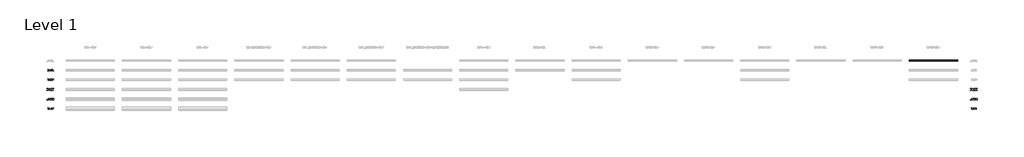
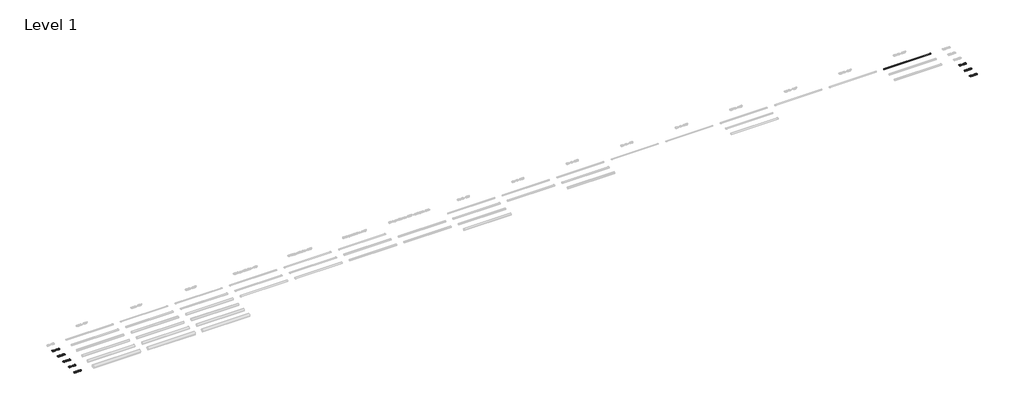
# One storey, part 2 of 9: 8 proxies, 1 pipe segment.
"""IFC4 building model written with IfcOpenShell, lengths in millimetres."""

from ifc_helpers import new_model, si_unit, point, frame, frame_2d, origin, origin_with_axes, place, context, project, spatial, polyline, circle_curve, trimmed, segment, composite_curve, outline, extrude, element, save

model = new_model("IFC4")

# Units and contexts
model_context = context("Model", 3, world=origin())
ifc_project = project(units=[si_unit("LENGTHUNIT", "METRE", prefix="MILLI")], contexts=[model_context])

# Site, building, storey
site = spatial("IfcSite", under=ifc_project)
building = spatial("IfcBuilding", under=site)
storey = spatial("IfcBuildingStorey", under=building, Name="Level 1", Elevation=0.0)

# Proxies
placement = place(None, origin())
element("IfcBuildingElementProxy", 1, Name="200mm Arial", ObjectType="200mm Arial", at=placement, inside=storey, context=model_context, shape_type="SweptSolid", body=[
    extrude(outline(polyline([(-19491.3116028, -713.949573), (-19491.3116028, -513.0369527), (-19422.0026349, -513.0369527), (-19386.1464031, -515.9309577), (-19370.1312736, -521.5105013), (-19356.6177416, -530.302881), (-19342.724065, -545.606772), (-19332.8280393, -564.6385338), (-19326.9051392, -587.0302846), (-19324.9308391, -612.4141423), (-19330.2773908, -652.9547382), (-19344.0116519, -682.2136195), (-19362.3567008, -700.436041), (-19386.3671323, -710.5160077), (-19418.6671715, -713.949573), (-19491.3116028, -713.949573)]), holes=[polyline([(-19466.1975253, -688.8354954), (-19421.7573803, -688.8354954), (-19389.4328156, -685.2057264), (-19370.7934612, -674.9540815), (-19362.0685265, -664.0831685), (-19355.5140957, -650.0116822), (-19351.4122114, -632.6783089), (-19350.0449167, -612.0217348), (-19352.7243239, -584.6513144), (-19360.7625455, -564.4423301), (-19372.6390025, -550.5609162), (-19386.8331162, -542.1732067), (-19422.4440933, -538.1510302), (-19466.1975253, -538.1510302), (-19466.1975253, -688.8354954)])]), origin_with_axes(), (0.0, 0.0, 1.0), 50.0),
    extrude(outline(polyline([(-19290.3989825, -713.949573), (-19290.3989825, -513.0369527), (-19263.5190714, -513.0369527), (-19158.5500754, -672.2072292), (-19158.5500754, -513.0369527), (-19133.4359979, -513.0369527), (-19133.4359979, -713.949573), (-19160.315909, -713.949573), (-19265.284905, -554.7302454), (-19265.284905, -713.949573), (-19290.3989825, -713.949573)])), origin_with_axes(), (0.0, 0.0, 1.0), 50.0),
    extrude(outline(polyline([(-18926.2448582, -713.949573), (-18951.3589358, -713.949573), (-18951.3589358, -557.3789958), (-18975.1486381, -574.3260931), (-19001.5870908, -587.0057592), (-19001.5870908, -563.2651077), (-18964.7743658, -539.769711), (-18951.3037535, -526.1948653), (-18942.431666, -513.0369527), (-18926.2448582, -513.0369527), (-18926.2448582, -713.949573)])), origin_with_axes(), (0.0, 0.0, 1.0), 50.0),
    extrude(outline(polyline([(-18737.8892767, -566.4043674), (-18763.0033542, -569.5436271), (-18772.5192352, -548.5988789), (-18783.9113143, -540.7629924), (-18797.6823636, -538.1510302), (-18820.3438945, -544.2333458), (-18829.7800677, -553.8411973), (-18837.4871955, -567.066555), (-18842.6927257, -585.7733545), (-18844.6241062, -611.8255311), (-18834.5502709, -600.0717013), (-18822.4776101, -591.7882251), (-18809.0805741, -586.8770005), (-18795.0336133, -585.2399256), (-18771.8325221, -589.7158232), (-18752.3593018, -603.143516), (-18739.1523382, -623.6590686), (-18734.750017, -649.3985455), (-18736.8224189, -667.3818437), (-18743.0396246, -684.0530295), (-18752.8865994, -698.1919608), (-18765.8483083, -708.5784958), (-18781.3361403, -714.9612484), (-18798.7614842, -717.0888326), (-18827.2539447, -711.4479754), (-18849.9461324, -694.5254036), (-18858.6051549, -681.4165418), (-18864.7901709, -664.6533856), (-18869.7381838, -620.1641897), (-18864.2444793, -570.144501), (-18857.3773487, -551.0667539), (-18847.7633659, -535.9437382), (-18837.3431084, -525.9220195), (-18825.2612505, -518.763649), (-18796.1127338, -513.0369527), (-18774.0766023, -516.5808825), (-18756.4305292, -527.2126722), (-18744.0696942, -544.0984558), (-18737.8892767, -566.4043674)]), holes=[polyline([(-18844.6241062, -649.0061381), (-18838.8115707, -670.7602267), (-18823.3605269, -686.554627), (-18800.7235215, -691.9747551), (-18784.1504376, -689.1665892), (-18771.1212836, -680.7420915), (-18762.6783918, -667.4983397), (-18759.8640945, -650.2324114), (-18762.6416036, -633.6593275), (-18770.9741308, -621.022581), (-18784.224014, -613.0211476), (-18801.7535911, -610.3540031), (-18818.3021495, -613.0211476), (-18832.1406439, -621.022581), (-18841.5032406, -633.3527592), (-18844.6241062, -649.0061381)])]), origin_with_axes(), (0.0, 0.0, 1.0), 50.0),
    extrude(outline(polyline([(-18712.7751992, -615.1119436), (-18710.9296578, -582.9529258), (-18705.3930338, -557.3054194), (-18696.2205094, -537.7770168), (-18683.4672669, -523.9753106), (-18667.0413358, -515.7715422), (-18646.8507456, -513.0369527), (-18631.3751764, -514.6556334), (-18617.5182879, -519.5116758), (-18605.930005, -527.4150073), (-18597.2602527, -538.1755557), (-18585.4880288, -567.9004209), (-18580.9262921, -615.1119436), (-18582.7534393, -647.0870203), (-18588.2348811, -672.6732131), (-18597.3522232, -692.2200098), (-18610.0870716, -706.0768983), (-18626.5497909, -714.335849), (-18646.8507456, -717.0888326), (-18672.9458418, -712.3063667), (-18692.7624186, -697.9589689), (-18701.5180101, -682.8298218), (-18707.772004, -663.9789353), (-18712.7751992, -615.1119436)]), holes=[polyline([(-18687.6611216, -615.0628927), (-18684.7180657, -654.5672876), (-18675.8888978, -677.4311536), (-18662.7432478, -688.3388547), (-18646.8507456, -691.9747551), (-18630.9582434, -688.326592), (-18617.8125935, -677.3821026), (-18608.9834256, -654.5059739), (-18606.0403696, -615.0628927), (-18608.8853237, -576.4475459), (-18617.420186, -553.4058703), (-18630.5413105, -541.9647402), (-18647.1450512, -538.1510302), (-18662.8658751, -541.5110191), (-18675.4964903, -551.5909857), (-18684.6199638, -576.0674012), (-18687.6611216, -615.0628927)])]), origin_with_axes(), (0.0, 0.0, 1.0), 50.0),
])
element("IfcBuildingElementProxy", 2, Name="200mm Arial", ObjectType="200mm Arial", at=placement, inside=storey, context=model_context, shape_type="SweptSolid", body=[
    extrude(outline(polyline([(-19491.3116028, -1913.949573), (-19491.3116028, -1713.0369527), (-19422.0026349, -1713.0369527), (-19386.1464031, -1715.9309577), (-19370.1312736, -1721.5105013), (-19356.6177416, -1730.302881), (-19342.724065, -1745.606772), (-19332.8280393, -1764.6385338), (-19326.9051392, -1787.0302846), (-19324.9308391, -1812.4141423), (-19330.2773908, -1852.9547382), (-19344.0116519, -1882.2136195), (-19362.3567008, -1900.436041), (-19386.3671323, -1910.5160077), (-19418.6671715, -1913.949573), (-19491.3116028, -1913.949573)]), holes=[polyline([(-19466.1975253, -1888.8354954), (-19421.7573803, -1888.8354954), (-19389.4328156, -1885.2057264), (-19370.7934612, -1874.9540815), (-19362.0685265, -1864.0831685), (-19355.5140957, -1850.0116822), (-19351.4122114, -1832.6783089), (-19350.0449167, -1812.0217348), (-19352.7243239, -1784.6513144), (-19360.7625455, -1764.4423301), (-19372.6390025, -1750.5609162), (-19386.8331162, -1742.1732067), (-19422.4440933, -1738.1510302), (-19466.1975253, -1738.1510302), (-19466.1975253, -1888.8354954)])]), origin_with_axes(), (0.0, 0.0, 1.0), 50.0),
    extrude(outline(polyline([(-19290.3989825, -1913.949573), (-19290.3989825, -1713.0369527), (-19263.5190714, -1713.0369527), (-19158.5500754, -1872.2072292), (-19158.5500754, -1713.0369527), (-19133.4359979, -1713.0369527), (-19133.4359979, -1913.949573), (-19160.315909, -1913.949573), (-19265.284905, -1754.7302454), (-19265.284905, -1913.949573), (-19290.3989825, -1913.949573)])), origin_with_axes(), (0.0, 0.0, 1.0), 50.0),
    extrude(outline(polyline([(-18891.7130016, -1888.8354954), (-18891.7130016, -1913.949573), (-19023.5619087, -1913.949573), (-19020.8641074, -1896.6345937), (-19005.6092673, -1869.9754118), (-18974.1676195, -1840.8636832), (-18930.806595, -1799.0232377), (-18922.6764029, -1784.6022634), (-18919.9663388, -1770.5736967), (-18922.5231187, -1757.9982638), (-18930.1934583, -1747.5442838), (-18941.9840762, -1740.4993436), (-18956.9016912, -1738.1510302), (-18972.5673328, -1740.4441613), (-18984.7380955, -1747.3235546), (-18992.5923761, -1758.2496499), (-18995.3085714, -1772.6828868), (-19020.422649, -1769.5436271), (-19014.334202, -1745.2511527), (-19001.1701579, -1727.5069778), (-18981.6172299, -1716.6544589), (-18956.3621309, -1713.0369527), (-18930.9230909, -1717.0591291), (-18911.4069511, -1729.1256586), (-18898.9909337, -1747.1518763), (-18894.8522613, -1769.0531178), (-18899.3158962, -1792.8673456), (-18914.1538033, -1817.4909138), (-18950.1326624, -1851.9001431), (-18979.0236618, -1876.0577275), (-18990.3544272, -1888.8354954), (-18891.7130016, -1888.8354954)])), origin_with_axes(), (0.0, 0.0, 1.0), 50.0),
    extrude(outline(polyline([(-18866.5989241, -1815.1119436), (-18864.7533827, -1782.9529258), (-18859.2167587, -1757.3054194), (-18850.0442343, -1737.7770168), (-18837.2909918, -1723.9753106), (-18820.8650607, -1715.7715422), (-18800.6744705, -1713.0369527), (-18785.1989013, -1714.6556334), (-18771.3420128, -1719.5116758), (-18759.7537299, -1727.4150073), (-18751.0839776, -1738.1755557), (-18739.3117537, -1767.9004209), (-18734.750017, -1815.1119436), (-18736.5771642, -1847.0870203), (-18742.058606, -1872.6732131), (-18751.1759481, -1892.2200098), (-18763.9107965, -1906.0768983), (-18780.3735158, -1914.335849), (-18800.6744705, -1917.0888326), (-18826.7695667, -1912.3063667), (-18846.5861435, -1897.9589689), (-18855.341735, -1882.8298218), (-18861.5957289, -1863.9789353), (-18866.5989241, -1815.1119436)]), holes=[polyline([(-18841.4848465, -1815.0628927), (-18838.5417906, -1854.5672876), (-18829.7126227, -1877.4311536), (-18816.5669727, -1888.3388547), (-18800.6744705, -1891.9747551), (-18784.7819683, -1888.326592), (-18771.6363184, -1877.3821026), (-18762.8071505, -1854.5059739), (-18759.8640945, -1815.0628927), (-18762.7090486, -1776.4475459), (-18771.2439109, -1753.4058703), (-18784.3650354, -1741.9647402), (-18800.9687761, -1738.1510302), (-18816.6896001, -1741.5110191), (-18829.3202152, -1751.5909857), (-18838.4436887, -1776.0674012), (-18841.4848465, -1815.0628927)])]), origin_with_axes(), (0.0, 0.0, 1.0), 50.0),
    extrude(outline(polyline([(-18712.7751992, -1815.1119436), (-18710.9296578, -1782.9529258), (-18705.3930338, -1757.3054194), (-18696.2205094, -1737.7770168), (-18683.4672669, -1723.9753106), (-18667.0413358, -1715.7715422), (-18646.8507456, -1713.0369527), (-18631.3751764, -1714.6556334), (-18617.5182879, -1719.5116758), (-18605.930005, -1727.4150073), (-18597.2602527, -1738.1755557), (-18585.4880288, -1767.9004209), (-18580.9262921, -1815.1119436), (-18582.7534393, -1847.0870203), (-18588.2348811, -1872.6732131), (-18597.3522232, -1892.2200098), (-18610.0870716, -1906.0768983), (-18626.5497909, -1914.335849), (-18646.8507456, -1917.0888326), (-18672.9458418, -1912.3063667), (-18692.7624186, -1897.9589689), (-18701.5180101, -1882.8298218), (-18707.772004, -1863.9789353), (-18712.7751992, -1815.1119436)]), holes=[polyline([(-18687.6611216, -1815.0628927), (-18684.7180657, -1854.5672876), (-18675.8888978, -1877.4311536), (-18662.7432478, -1888.3388547), (-18646.8507456, -1891.9747551), (-18630.9582434, -1888.326592), (-18617.8125935, -1877.3821026), (-18608.9834256, -1854.5059739), (-18606.0403696, -1815.0628927), (-18608.8853237, -1776.4475459), (-18617.420186, -1753.4058703), (-18630.5413105, -1741.9647402), (-18647.1450512, -1738.1510302), (-18662.8658751, -1741.5110191), (-18675.4964903, -1751.5909857), (-18684.6199638, -1776.0674012), (-18687.6611216, -1815.0628927)])]), origin_with_axes(), (0.0, 0.0, 1.0), 50.0),
])
element("IfcBuildingElementProxy", 3, Name="200mm Arial", ObjectType="200mm Arial", at=placement, inside=storey, context=model_context, shape_type="SweptSolid", body=[
    extrude(outline(polyline([(-19491.3116028, -3113.949573), (-19491.3116028, -2913.0369527), (-19422.0026349, -2913.0369527), (-19386.1464031, -2915.9309577), (-19370.1312736, -2921.5105013), (-19356.6177416, -2930.302881), (-19342.724065, -2945.606772), (-19332.8280393, -2964.6385338), (-19326.9051392, -2987.0302846), (-19324.9308391, -3012.4141423), (-19330.2773908, -3052.9547382), (-19344.0116519, -3082.2136195), (-19362.3567008, -3100.436041), (-19386.3671323, -3110.5160077), (-19418.6671715, -3113.949573), (-19491.3116028, -3113.949573)]), holes=[polyline([(-19466.1975253, -3088.8354954), (-19421.7573803, -3088.8354954), (-19389.4328156, -3085.2057264), (-19370.7934612, -3074.9540815), (-19362.0685265, -3064.0831685), (-19355.5140957, -3050.0116822), (-19351.4122114, -3032.6783089), (-19350.0449167, -3012.0217348), (-19352.7243239, -2984.6513144), (-19360.7625455, -2964.4423301), (-19372.6390025, -2950.5609162), (-19386.8331162, -2942.1732067), (-19422.4440933, -2938.1510302), (-19466.1975253, -2938.1510302), (-19466.1975253, -3088.8354954)])]), origin_with_axes(), (0.0, 0.0, 1.0), 50.0),
    extrude(outline(polyline([(-19290.3989825, -3113.949573), (-19290.3989825, -2913.0369527), (-19263.5190714, -2913.0369527), (-19158.5500754, -3072.2072292), (-19158.5500754, -2913.0369527), (-19133.4359979, -2913.0369527), (-19133.4359979, -3113.949573), (-19160.315909, -3113.949573), (-19265.284905, -2954.7302454), (-19265.284905, -3113.949573), (-19290.3989825, -3113.949573)])), origin_with_axes(), (0.0, 0.0, 1.0), 50.0),
    extrude(outline(polyline([(-18891.7130016, -3088.8354954), (-18891.7130016, -3113.949573), (-19023.5619087, -3113.949573), (-19020.8641074, -3096.6345937), (-19005.6092673, -3069.9754118), (-18974.1676195, -3040.8636832), (-18930.806595, -2999.0232377), (-18922.6764029, -2984.6022634), (-18919.9663388, -2970.5736967), (-18922.5231187, -2957.9982638), (-18930.1934583, -2947.5442838), (-18941.9840762, -2940.4993436), (-18956.9016912, -2938.1510302), (-18972.5673328, -2940.4441613), (-18984.7380955, -2947.3235546), (-18992.5923761, -2958.2496499), (-18995.3085714, -2972.6828868), (-19020.422649, -2969.5436271), (-19014.334202, -2945.2511527), (-19001.1701579, -2927.5069778), (-18981.6172299, -2916.6544589), (-18956.3621309, -2913.0369527), (-18930.9230909, -2917.0591291), (-18911.4069511, -2929.1256586), (-18898.9909337, -2947.1518763), (-18894.8522613, -2969.0531178), (-18899.3158962, -2992.8673456), (-18914.1538033, -3017.4909138), (-18950.1326624, -3051.9001431), (-18979.0236618, -3076.0577275), (-18990.3544272, -3088.8354954), (-18891.7130016, -3088.8354954)])), origin_with_axes(), (0.0, 0.0, 1.0), 50.0),
    extrude(outline(polyline([(-18866.5989241, -3060.5821582), (-18841.4848465, -3057.4428985), (-18836.8740589, -3072.5199289), (-18828.8297059, -3083.3172655), (-18817.3885758, -3089.8103827), (-18802.5874569, -3091.9747551), (-18784.5857646, -3088.9642541), (-18771.0967581, -3079.9327511), (-18762.6722604, -3065.9225785), (-18759.8640945, -3047.9760685), (-18762.4944508, -3031.0780222), (-18770.3855196, -3018.1531014), (-18783.5986146, -3009.9493329), (-18802.1950494, -3007.2147434), (-18824.2434437, -3011.5802764), (-18838.3455868, -3022.9110419), (-18863.4596644, -3019.7717822), (-18841.4848465, -2916.1762123), (-18744.1677961, -2916.1762123), (-18744.1677961, -2941.2902899), (-18821.1777604, -2941.2902899), (-18831.9199147, -2996.619742), (-18813.979536, -2985.7304349), (-18795.1807661, -2982.1006659), (-18771.7160261, -2986.601089), (-18752.2366745, -3000.1023582), (-18739.1216814, -3020.6792244), (-18734.750017, -3046.4064386), (-18738.6863543, -3071.5205162), (-18750.4953664, -3093.0048247), (-18760.9309523, -3103.5415782), (-18773.1078464, -3111.0678307), (-18787.0260485, -3115.5835821), (-18802.6855588, -3117.0888326), (-18827.3520466, -3113.2199403), (-18847.0030765, -3101.6132634), (-18860.4736888, -3083.6177025), (-18866.5989241, -3060.5821582)])), origin_with_axes(), (0.0, 0.0, 1.0), 50.0),
    extrude(outline(polyline([(-18712.7751992, -3015.1119436), (-18710.9296578, -2982.9529258), (-18705.3930338, -2957.3054194), (-18696.2205094, -2937.7770168), (-18683.4672669, -2923.9753106), (-18667.0413358, -2915.7715422), (-18646.8507456, -2913.0369527), (-18631.3751764, -2914.6556334), (-18617.5182879, -2919.5116758), (-18605.930005, -2927.4150073), (-18597.2602527, -2938.1755557), (-18585.4880288, -2967.9004209), (-18580.9262921, -3015.1119436), (-18582.7534393, -3047.0870203), (-18588.2348811, -3072.6732131), (-18597.3522232, -3092.2200098), (-18610.0870716, -3106.0768983), (-18626.5497909, -3114.335849), (-18646.8507456, -3117.0888326), (-18672.9458418, -3112.3063667), (-18692.7624186, -3097.9589689), (-18701.5180101, -3082.8298218), (-18707.772004, -3063.9789353), (-18712.7751992, -3015.1119436)]), holes=[polyline([(-18687.6611216, -3015.0628927), (-18684.7180657, -3054.5672876), (-18675.8888978, -3077.4311536), (-18662.7432478, -3088.3388547), (-18646.8507456, -3091.9747551), (-18630.9582434, -3088.326592), (-18617.8125935, -3077.3821026), (-18608.9834256, -3054.5059739), (-18606.0403696, -3015.0628927), (-18608.8853237, -2976.4475459), (-18617.420186, -2953.4058703), (-18630.5413105, -2941.9647402), (-18647.1450512, -2938.1510302), (-18662.8658751, -2941.5110191), (-18675.4964903, -2951.5909857), (-18684.6199638, -2976.0674012), (-18687.6611216, -3015.0628927)])]), origin_with_axes(), (0.0, 0.0, 1.0), 50.0),
])
element("IfcBuildingElementProxy", 4, Name="200mm Arial", ObjectType="200mm Arial", at=placement, inside=storey, context=model_context, shape_type="SweptSolid", body=[
    extrude(outline(polyline([(-19491.3116028, -4313.949573), (-19491.3116028, -4113.0369527), (-19422.0026349, -4113.0369527), (-19386.1464031, -4115.9309577), (-19370.1312736, -4121.5105013), (-19356.6177416, -4130.302881), (-19342.724065, -4145.606772), (-19332.8280393, -4164.6385338), (-19326.9051392, -4187.0302846), (-19324.9308391, -4212.4141423), (-19330.2773908, -4252.9547382), (-19344.0116519, -4282.2136195), (-19362.3567008, -4300.436041), (-19386.3671323, -4310.5160077), (-19418.6671715, -4313.949573), (-19491.3116028, -4313.949573)]), holes=[polyline([(-19466.1975253, -4288.8354954), (-19421.7573803, -4288.8354954), (-19389.4328156, -4285.2057264), (-19370.7934612, -4274.9540815), (-19362.0685265, -4264.0831685), (-19355.5140957, -4250.0116822), (-19351.4122114, -4232.6783089), (-19350.0449167, -4212.0217348), (-19352.7243239, -4184.6513144), (-19360.7625455, -4164.4423301), (-19372.6390025, -4150.5609162), (-19386.8331162, -4142.1732067), (-19422.4440933, -4138.1510302), (-19466.1975253, -4138.1510302), (-19466.1975253, -4288.8354954)])]), origin_with_axes(), (0.0, 0.0, 1.0), 50.0),
    extrude(outline(polyline([(-19290.3989825, -4313.949573), (-19290.3989825, -4113.0369527), (-19263.5190714, -4113.0369527), (-19158.5500754, -4272.2072292), (-19158.5500754, -4113.0369527), (-19133.4359979, -4113.0369527), (-19133.4359979, -4313.949573), (-19160.315909, -4313.949573), (-19265.284905, -4154.7302454), (-19265.284905, -4313.949573), (-19290.3989825, -4313.949573)])), origin_with_axes(), (0.0, 0.0, 1.0), 50.0),
    extrude(outline(polyline([(-19020.422649, -4260.5821582), (-18995.3085714, -4257.4428985), (-18989.6861083, -4273.2250361), (-18981.451683, -4283.8813512), (-18970.2006253, -4289.9514041), (-18955.528265, -4291.9747551), (-18938.3113877, -4289.1911147), (-18925.0185849, -4280.8401934), (-18916.5205108, -4268.3812565), (-18913.6878195, -4253.2735692), (-18916.4959853, -4238.9323028), (-18924.920483, -4227.3011004), (-18937.6737255, -4219.5939726), (-18953.4681259, -4217.02493), (-18971.0774107, -4219.7717822), (-18968.2815075, -4194.6577047), (-18964.2593311, -4194.9520102), (-18949.2129575, -4193.1493885), (-18935.7607392, -4187.7415231), (-18926.2693837, -4178.5935242), (-18923.1055985, -4165.5705016), (-18925.3987296, -4154.7241141), (-18932.2781229, -4145.925603), (-18942.7750225, -4140.0946734), (-18955.9206725, -4138.1510302), (-18969.0908479, -4140.1130675), (-18979.8575277, -4145.9991794), (-18987.7179396, -4155.809366), (-18992.1693118, -4169.5436271), (-19017.2833893, -4166.4043674), (-19009.8889612, -4143.8532011), (-18996.7310485, -4127.0164685), (-18978.7293562, -4116.5318316), (-18956.8035893, -4113.0369527), (-18941.0153203, -4114.7598667), (-18926.5146384, -4119.9286087), (-18914.2886934, -4128.0833263), (-18905.3246354, -4138.7641669), (-18899.8247996, -4151.0698196), (-18897.991521, -4164.0989736), (-18899.7328291, -4176.2390794), (-18904.9567534, -4187.2510138), (-18913.5897176, -4196.6320047), (-18925.5581452, -4203.87928), (-18909.8373212, -4210.2313758), (-18898.1877247, -4221.0471064), (-18890.9772376, -4235.7378608), (-18888.5737419, -4253.7150276), (-18893.3807333, -4278.191443), (-18907.8017075, -4298.645682), (-18929.5680589, -4312.478045), (-18956.4111818, -4317.0888326), (-18980.6913935, -4313.1524953), (-19000.4589194, -4301.3434833), (-19014.2054433, -4283.2804773), (-19020.422649, -4260.5821582)])), origin_with_axes(), (0.0, 0.0, 1.0), 50.0),
    extrude(outline(polyline([(-18772.4211333, -4313.949573), (-18797.5352108, -4313.949573), (-18797.5352108, -4157.3789958), (-18821.3249132, -4174.3260931), (-18847.7633659, -4187.0057592), (-18847.7633659, -4163.2651077), (-18810.9506409, -4139.769711), (-18797.4800285, -4126.1948653), (-18788.6079411, -4113.0369527), (-18772.4211333, -4113.0369527), (-18772.4211333, -4313.949573)])), origin_with_axes(), (0.0, 0.0, 1.0), 50.0),
    extrude(outline(polyline([(-18712.7751992, -4260.5821582), (-18687.6611216, -4257.4428985), (-18683.0503339, -4272.5199289), (-18675.005981, -4283.3172655), (-18663.5648509, -4289.8103827), (-18648.763732, -4291.9747551), (-18630.7620397, -4288.9642541), (-18617.2730332, -4279.9327511), (-18608.8485355, -4265.9225785), (-18606.0403696, -4247.9760685), (-18608.6707259, -4231.0780222), (-18616.5617947, -4218.1531014), (-18629.7748897, -4209.9493329), (-18648.3713245, -4207.2147434), (-18670.4197188, -4211.5802764), (-18684.5218619, -4222.9110419), (-18709.6359395, -4219.7717822), (-18687.6611216, -4116.1762123), (-18590.3440712, -4116.1762123), (-18590.3440712, -4141.2902899), (-18667.3540355, -4141.2902899), (-18678.0961897, -4196.619742), (-18660.1558111, -4185.7304349), (-18641.3570412, -4182.1006659), (-18617.8923012, -4186.601089), (-18598.4129496, -4200.1023582), (-18585.2979565, -4220.6792244), (-18580.9262921, -4246.4064386), (-18584.8626294, -4271.5205162), (-18596.6716415, -4293.0048247), (-18607.1072274, -4303.5415782), (-18619.2841214, -4311.0678307), (-18633.2023236, -4315.5835821), (-18648.8618339, -4317.0888326), (-18673.5283216, -4313.2199403), (-18693.1793515, -4301.6132634), (-18706.6499639, -4283.6177025), (-18712.7751992, -4260.5821582)])), origin_with_axes(), (0.0, 0.0, 1.0), 50.0),
])
element("IfcBuildingElementProxy", 5, Name="200mm Arial", ObjectType="200mm Arial", at=placement, inside=storey, context=model_context, shape_type="SweptSolid", body=[
    extrude(outline(polyline([(-19491.3116028, -5513.949573), (-19491.3116028, -5313.0369527), (-19422.0026349, -5313.0369527), (-19386.1464031, -5315.9309577), (-19370.1312736, -5321.5105013), (-19356.6177416, -5330.302881), (-19342.724065, -5345.606772), (-19332.8280393, -5364.6385338), (-19326.9051392, -5387.0302846), (-19324.9308391, -5412.4141423), (-19330.2773908, -5452.9547382), (-19344.0116519, -5482.2136195), (-19362.3567008, -5500.436041), (-19386.3671323, -5510.5160077), (-19418.6671715, -5513.949573), (-19491.3116028, -5513.949573)]), holes=[polyline([(-19466.1975253, -5488.8354954), (-19421.7573803, -5488.8354954), (-19389.4328156, -5485.2057264), (-19370.7934612, -5474.9540815), (-19362.0685265, -5464.0831685), (-19355.5140957, -5450.0116822), (-19351.4122114, -5432.6783089), (-19350.0449167, -5412.0217348), (-19352.7243239, -5384.6513144), (-19360.7625455, -5364.4423301), (-19372.6390025, -5350.5609162), (-19386.8331162, -5342.1732067), (-19422.4440933, -5338.1510302), (-19466.1975253, -5338.1510302), (-19466.1975253, -5488.8354954)])]), origin_with_axes(), (0.0, 0.0, 1.0), 50.0),
    extrude(outline(polyline([(-19290.3989825, -5513.949573), (-19290.3989825, -5313.0369527), (-19263.5190714, -5313.0369527), (-19158.5500754, -5472.2072292), (-19158.5500754, -5313.0369527), (-19133.4359979, -5313.0369527), (-19133.4359979, -5513.949573), (-19160.315909, -5513.949573), (-19265.284905, -5354.7302454), (-19265.284905, -5513.949573), (-19290.3989825, -5513.949573)])), origin_with_axes(), (0.0, 0.0, 1.0), 50.0),
    extrude(outline(polyline([(-18938.801897, -5513.949573), (-18938.801897, -5466.8606776), (-19029.8404281, -5466.8606776), (-19029.8404281, -5441.7466), (-18932.5233776, -5316.1762123), (-18913.6878195, -5316.1762123), (-18913.6878195, -5441.7466), (-18888.5737419, -5441.7466), (-18888.5737419, -5466.8606776), (-18913.6878195, -5466.8606776), (-18913.6878195, -5513.949573), (-18938.801897, -5513.949573)]), holes=[polyline([(-18938.801897, -5441.7466), (-18938.801897, -5364.1480245), (-18998.9383405, -5441.7466), (-18938.801897, -5441.7466)])]), origin_with_axes(), (0.0, 0.0, 1.0), 50.0),
    extrude(outline(polyline([(-18866.5989241, -5415.1119436), (-18864.7533827, -5382.9529258), (-18859.2167587, -5357.3054194), (-18850.0442343, -5337.7770168), (-18837.2909918, -5323.9753106), (-18820.8650607, -5315.7715422), (-18800.6744705, -5313.0369527), (-18785.1989013, -5314.6556334), (-18771.3420128, -5319.5116758), (-18759.7537299, -5327.4150073), (-18751.0839776, -5338.1755557), (-18739.3117537, -5367.9004209), (-18734.750017, -5415.1119436), (-18736.5771642, -5447.0870203), (-18742.058606, -5472.6732131), (-18751.1759481, -5492.2200098), (-18763.9107965, -5506.0768983), (-18780.3735158, -5514.335849), (-18800.6744705, -5517.0888326), (-18826.7695667, -5512.3063667), (-18846.5861435, -5497.9589689), (-18855.341735, -5482.8298218), (-18861.5957289, -5463.9789353), (-18866.5989241, -5415.1119436)]), holes=[polyline([(-18841.4848465, -5415.0628927), (-18838.5417906, -5454.5672876), (-18829.7126227, -5477.4311536), (-18816.5669727, -5488.3388547), (-18800.6744705, -5491.9747551), (-18784.7819683, -5488.326592), (-18771.6363184, -5477.3821026), (-18762.8071505, -5454.5059739), (-18759.8640945, -5415.0628927), (-18762.7090486, -5376.4475459), (-18771.2439109, -5353.4058703), (-18784.3650354, -5341.9647402), (-18800.9687761, -5338.1510302), (-18816.6896001, -5341.5110191), (-18829.3202152, -5351.5909857), (-18838.4436887, -5376.0674012), (-18841.4848465, -5415.0628927)])]), origin_with_axes(), (0.0, 0.0, 1.0), 50.0),
    extrude(outline(polyline([(-18712.7751992, -5415.1119436), (-18710.9296578, -5382.9529258), (-18705.3930338, -5357.3054194), (-18696.2205094, -5337.7770168), (-18683.4672669, -5323.9753106), (-18667.0413358, -5315.7715422), (-18646.8507456, -5313.0369527), (-18631.3751764, -5314.6556334), (-18617.5182879, -5319.5116758), (-18605.930005, -5327.4150073), (-18597.2602527, -5338.1755557), (-18585.4880288, -5367.9004209), (-18580.9262921, -5415.1119436), (-18582.7534393, -5447.0870203), (-18588.2348811, -5472.6732131), (-18597.3522232, -5492.2200098), (-18610.0870716, -5506.0768983), (-18626.5497909, -5514.335849), (-18646.8507456, -5517.0888326), (-18672.9458418, -5512.3063667), (-18692.7624186, -5497.9589689), (-18701.5180101, -5482.8298218), (-18707.772004, -5463.9789353), (-18712.7751992, -5415.1119436)]), holes=[polyline([(-18687.6611216, -5415.0628927), (-18684.7180657, -5454.5672876), (-18675.8888978, -5477.4311536), (-18662.7432478, -5488.3388547), (-18646.8507456, -5491.9747551), (-18630.9582434, -5488.326592), (-18617.8125935, -5477.3821026), (-18608.9834256, -5454.5059739), (-18606.0403696, -5415.0628927), (-18608.8853237, -5376.4475459), (-18617.420186, -5353.4058703), (-18630.5413105, -5341.9647402), (-18647.1450512, -5338.1510302), (-18662.8658751, -5341.5110191), (-18675.4964903, -5351.5909857), (-18684.6199638, -5376.0674012), (-18687.6611216, -5415.0628927)])]), origin_with_axes(), (0.0, 0.0, 1.0), 50.0),
])
element("IfcBuildingElementProxy", 6, Name="200mm Arial", ObjectType="200mm Arial", at=placement, inside=storey, context=model_context, shape_type="SweptSolid", body=[
    extrude(outline(polyline([(95539.3076926, -3113.949573), (95539.3076926, -2913.0369527), (95608.6166605, -2913.0369527), (95644.4728923, -2915.9309577), (95660.4880218, -2921.5105013), (95674.0015538, -2930.302881), (95687.8952305, -2945.606772), (95697.7912562, -2964.6385338), (95703.7141563, -2987.0302846), (95705.6884563, -3012.4141423), (95700.3419047, -3052.9547382), (95686.6076435, -3082.2136195), (95668.2625947, -3100.436041), (95644.2521631, -3110.5160077), (95611.9521239, -3113.949573), (95539.3076926, -3113.949573)]), holes=[polyline([(95564.4217702, -3088.8354954), (95608.8619152, -3088.8354954), (95641.1864798, -3085.2057264), (95659.8258342, -3074.9540815), (95668.5507689, -3064.0831685), (95675.1051998, -3050.0116822), (95679.207084, -3032.6783089), (95680.5743788, -3012.0217348), (95677.8949716, -2984.6513144), (95669.85675, -2964.4423301), (95657.9802929, -2950.5609162), (95643.7861793, -2942.1732067), (95608.1752021, -2938.1510302), (95564.4217702, -2938.1510302), (95564.4217702, -3088.8354954)])]), origin_with_axes(), (0.0, 0.0, 1.0), 50.0),
    extrude(outline(polyline([(95740.2203129, -3113.949573), (95740.2203129, -2913.0369527), (95767.100224, -2913.0369527), (95872.06922, -3072.2072292), (95872.06922, -2913.0369527), (95897.1832975, -2913.0369527), (95897.1832975, -3113.949573), (95870.3033864, -3113.949573), (95765.3343905, -2954.7302454), (95765.3343905, -3113.949573), (95740.2203129, -3113.949573)])), origin_with_axes(), (0.0, 0.0, 1.0), 50.0),
    extrude(outline(polyline([(96138.9062938, -3088.8354954), (96138.9062938, -3113.949573), (96007.0573868, -3113.949573), (96009.7551881, -3096.6345937), (96025.0100281, -3069.9754118), (96056.451676, -3040.8636832), (96099.8127005, -2999.0232377), (96107.9428926, -2984.6022635), (96110.6529566, -2970.5736967), (96108.0961767, -2957.9982638), (96100.4258371, -2947.5442838), (96088.6352192, -2940.4993436), (96073.7176043, -2938.1510302), (96058.0519627, -2940.4441613), (96045.8812, -2947.3235546), (96038.0269194, -2958.2496499), (96035.310724, -2972.6828868), (96010.1966465, -2969.5436271), (96016.2850935, -2945.2511527), (96029.4491375, -2927.5069778), (96049.0020656, -2916.6544589), (96074.2571645, -2913.0369527), (96099.6962045, -2917.0591291), (96119.2123444, -2929.1256586), (96131.6283617, -2947.1518763), (96135.7670341, -2969.0531178), (96131.3033993, -2992.8673456), (96116.4654921, -3017.4909138), (96080.486633, -3051.9001431), (96051.5956336, -3076.0577275), (96040.2648682, -3088.8354954), (96138.9062938, -3088.8354954)])), origin_with_axes(), (0.0, 0.0, 1.0), 50.0),
    extrude(outline(polyline([(96164.0203714, -3060.5821582), (96189.1344489, -3057.4428985), (96193.7452366, -3072.5199289), (96201.7895895, -3083.3172655), (96213.2307196, -3089.8103827), (96228.0318385, -3091.9747551), (96246.0335308, -3088.9642541), (96259.5225373, -3079.9327511), (96267.947035, -3065.9225785), (96270.7552009, -3047.9760685), (96268.1248446, -3031.0780222), (96260.2337758, -3018.1531014), (96247.0206809, -3009.9493329), (96228.424246, -3007.2147434), (96206.3758518, -3011.5802764), (96192.2737086, -3022.9110419), (96167.1596311, -3019.7717822), (96189.1344489, -2916.1762123), (96286.4514994, -2916.1762123), (96286.4514994, -2941.2902899), (96209.441535, -2941.2902899), (96198.6993808, -2996.619742), (96216.6397594, -2985.7304349), (96235.4385294, -2982.1006659), (96258.9032693, -2986.601089), (96278.3826209, -3000.1023582), (96291.4976141, -3020.6792244), (96295.8692784, -3046.4064386), (96291.9329411, -3071.5205162), (96280.123929, -3093.0048247), (96269.6883431, -3103.5415782), (96257.5114491, -3111.0678307), (96243.5932469, -3115.5835821), (96227.9337367, -3117.0888326), (96203.2672489, -3113.2199403), (96183.616219, -3101.6132634), (96170.1456066, -3083.6177025), (96164.0203714, -3060.5821582)])), origin_with_axes(), (0.0, 0.0, 1.0), 50.0),
    extrude(outline(polyline([(96317.8440963, -3015.1119436), (96319.6896376, -2982.9529258), (96325.2262617, -2957.3054194), (96334.3987861, -2937.7770168), (96347.1520286, -2923.9753106), (96363.5779597, -2915.7715422), (96383.7685498, -2913.0369527), (96399.2441191, -2914.6556334), (96413.1010076, -2919.5116758), (96424.6892904, -2927.4150073), (96433.3590428, -2938.1755557), (96445.1312666, -2967.9004209), (96449.6930034, -3015.1119436), (96447.8658561, -3047.0870203), (96442.3844144, -3072.6732131), (96433.2670723, -3092.2200098), (96420.5322239, -3106.0768983), (96404.0695046, -3114.335849), (96383.7685498, -3117.0888326), (96357.6734536, -3112.3063667), (96337.8568768, -3097.9589689), (96329.1012853, -3082.8298218), (96322.8472914, -3063.9789353), (96317.8440963, -3015.1119436)]), holes=[polyline([(96342.9581738, -3015.0628927), (96345.9012298, -3054.5672876), (96354.7303977, -3077.4311536), (96367.8760476, -3088.3388547), (96383.7685498, -3091.9747551), (96399.661052, -3088.326592), (96412.806702, -3077.3821026), (96421.6358699, -3054.5059739), (96424.5789258, -3015.0628927), (96421.7339717, -2976.4475459), (96413.1991094, -2953.4058703), (96400.0779849, -2941.9647402), (96383.4742442, -2938.1510302), (96367.7534203, -2941.5110191), (96355.1228051, -2951.5909857), (96345.9993317, -2976.0674012), (96342.9581738, -3015.0628927)])]), origin_with_axes(), (0.0, 0.0, 1.0), 50.0),
])
element("IfcBuildingElementProxy", 7, Name="200mm Arial", ObjectType="200mm Arial", at=placement, inside=storey, context=model_context, shape_type="SweptSolid", body=[
    extrude(outline(polyline([(95539.3076926, -4313.949573), (95539.3076926, -4113.0369527), (95608.6166605, -4113.0369527), (95644.4728923, -4115.9309577), (95660.4880218, -4121.5105013), (95674.0015538, -4130.302881), (95687.8952305, -4145.606772), (95697.7912562, -4164.6385338), (95703.7141563, -4187.0302846), (95705.6884563, -4212.4141423), (95700.3419047, -4252.9547382), (95686.6076435, -4282.2136195), (95668.2625947, -4300.436041), (95644.2521631, -4310.5160077), (95611.9521239, -4313.949573), (95539.3076926, -4313.949573)]), holes=[polyline([(95564.4217702, -4288.8354954), (95608.8619152, -4288.8354954), (95641.1864798, -4285.2057264), (95659.8258342, -4274.9540815), (95668.5507689, -4264.0831685), (95675.1051998, -4250.0116822), (95679.207084, -4232.6783089), (95680.5743788, -4212.0217348), (95677.8949716, -4184.6513144), (95669.85675, -4164.4423301), (95657.9802929, -4150.5609162), (95643.7861793, -4142.1732067), (95608.1752021, -4138.1510302), (95564.4217702, -4138.1510302), (95564.4217702, -4288.8354954)])]), origin_with_axes(), (0.0, 0.0, 1.0), 50.0),
    extrude(outline(polyline([(95740.2203129, -4313.949573), (95740.2203129, -4113.0369527), (95767.100224, -4113.0369527), (95872.06922, -4272.2072292), (95872.06922, -4113.0369527), (95897.1832975, -4113.0369527), (95897.1832975, -4313.949573), (95870.3033864, -4313.949573), (95765.3343905, -4154.7302454), (95765.3343905, -4313.949573), (95740.2203129, -4313.949573)])), origin_with_axes(), (0.0, 0.0, 1.0), 50.0),
    extrude(outline(polyline([(96010.1966465, -4260.5821582), (96035.310724, -4257.4428985), (96040.9331872, -4273.2250361), (96049.1676125, -4283.8813512), (96060.4186702, -4289.9514041), (96075.0910304, -4291.9747551), (96092.3079078, -4289.1911147), (96105.6007105, -4280.8401934), (96114.0987846, -4268.3812565), (96116.931476, -4253.2735692), (96114.1233101, -4238.9323028), (96105.6988124, -4227.3011004), (96092.9455699, -4219.5939726), (96077.1511696, -4217.02493), (96059.5418847, -4219.7717822), (96062.3377879, -4194.6577047), (96066.3599644, -4194.9520102), (96081.406338, -4193.1493885), (96094.8585563, -4187.7415231), (96104.3499118, -4178.5935242), (96107.5136969, -4165.5705016), (96105.2205658, -4154.7241141), (96098.3411725, -4145.925603), (96087.8442729, -4140.0946734), (96074.6986229, -4138.1510302), (96061.5284475, -4140.1130675), (96050.7617678, -4145.9991794), (96042.9013558, -4155.809366), (96038.4499837, -4169.5436271), (96013.3359061, -4166.4043674), (96020.7303343, -4143.8532011), (96033.8882469, -4127.0164685), (96051.8899392, -4116.5318316), (96073.8157062, -4113.0369527), (96089.6039751, -4114.7598667), (96104.1046571, -4119.9286087), (96116.3306021, -4128.0833263), (96125.29466, -4138.7641669), (96130.7944958, -4151.0698196), (96132.6277745, -4164.0989736), (96130.8864663, -4176.2390794), (96125.662542, -4187.2510138), (96117.0295779, -4196.6320047), (96105.0611503, -4203.87928), (96120.7819742, -4210.2313758), (96132.4315707, -4221.0471064), (96139.6420578, -4235.7378608), (96142.0455535, -4253.7150276), (96137.2385621, -4278.191443), (96122.8175879, -4298.645682), (96101.0512365, -4312.478045), (96074.2081136, -4317.0888326), (96049.9279019, -4313.1524953), (96030.1603761, -4301.3434833), (96016.4138522, -4283.2804773), (96010.1966465, -4260.5821582)])), origin_with_axes(), (0.0, 0.0, 1.0), 50.0),
    extrude(outline(polyline([(96258.1981621, -4313.949573), (96233.0840846, -4313.949573), (96233.0840846, -4157.3789958), (96209.2943822, -4174.3260931), (96182.8559295, -4187.0057592), (96182.8559295, -4163.2651077), (96219.6686545, -4139.769711), (96233.1392669, -4126.1948653), (96242.0113543, -4113.0369527), (96258.1981621, -4113.0369527), (96258.1981621, -4313.949573)])), origin_with_axes(), (0.0, 0.0, 1.0), 50.0),
    extrude(outline(polyline([(96317.8440963, -4260.5821582), (96342.9581738, -4257.4428985), (96347.5689615, -4272.5199289), (96355.6133145, -4283.3172655), (96367.0544445, -4289.8103827), (96381.8555634, -4291.9747551), (96399.8572557, -4288.9642541), (96413.3462622, -4279.9327511), (96421.7707599, -4265.9225785), (96424.5789258, -4247.9760685), (96421.9485696, -4231.0780222), (96414.0575008, -4218.1531014), (96400.8444058, -4209.9493329), (96382.2479709, -4207.2147434), (96360.1995767, -4211.5802764), (96346.0974335, -4222.9110419), (96320.983356, -4219.7717822), (96342.9581738, -4116.1762123), (96440.2752243, -4116.1762123), (96440.2752243, -4141.2902899), (96363.26526, -4141.2902899), (96352.5231057, -4196.619742), (96370.4634843, -4185.7304349), (96389.2622543, -4182.1006659), (96412.7269942, -4186.601089), (96432.2063459, -4200.1023582), (96445.321339, -4220.6792244), (96449.6930034, -4246.4064386), (96445.756666, -4271.5205162), (96433.947654, -4293.0048247), (96423.512068, -4303.5415782), (96411.335174, -4311.0678307), (96397.4169718, -4315.5835821), (96381.7574616, -4317.0888326), (96357.0909738, -4313.2199403), (96337.4399439, -4301.6132634), (96323.9693315, -4283.6177025), (96317.8440963, -4260.5821582)])), origin_with_axes(), (0.0, 0.0, 1.0), 50.0),
])
element("IfcBuildingElementProxy", 8, Name="200mm Arial", ObjectType="200mm Arial", at=placement, inside=storey, context=model_context, shape_type="SweptSolid", body=[
    extrude(outline(polyline([(95539.3076926, -5513.949573), (95539.3076926, -5313.0369527), (95608.6166605, -5313.0369527), (95644.4728923, -5315.9309577), (95660.4880218, -5321.5105013), (95674.0015538, -5330.302881), (95687.8952305, -5345.606772), (95697.7912562, -5364.6385338), (95703.7141563, -5387.0302846), (95705.6884563, -5412.4141423), (95700.3419047, -5452.9547382), (95686.6076435, -5482.2136195), (95668.2625947, -5500.436041), (95644.2521631, -5510.5160077), (95611.9521239, -5513.949573), (95539.3076926, -5513.949573)]), holes=[polyline([(95564.4217702, -5488.8354954), (95608.8619152, -5488.8354954), (95641.1864798, -5485.2057264), (95659.8258342, -5474.9540815), (95668.5507689, -5464.0831685), (95675.1051998, -5450.0116822), (95679.207084, -5432.6783089), (95680.5743788, -5412.0217348), (95677.8949716, -5384.6513144), (95669.85675, -5364.4423301), (95657.9802929, -5350.5609162), (95643.7861793, -5342.1732067), (95608.1752021, -5338.1510302), (95564.4217702, -5338.1510302), (95564.4217702, -5488.8354954)])]), origin_with_axes(), (0.0, 0.0, 1.0), 50.0),
    extrude(outline(polyline([(95740.2203129, -5513.949573), (95740.2203129, -5313.0369527), (95767.100224, -5313.0369527), (95872.06922, -5472.2072292), (95872.06922, -5313.0369527), (95897.1832975, -5313.0369527), (95897.1832975, -5513.949573), (95870.3033864, -5513.949573), (95765.3343905, -5354.7302454), (95765.3343905, -5513.949573), (95740.2203129, -5513.949573)])), origin_with_axes(), (0.0, 0.0, 1.0), 50.0),
    extrude(outline(polyline([(96091.8173985, -5513.949573), (96091.8173985, -5466.8606776), (96000.7788674, -5466.8606776), (96000.7788674, -5441.7466), (96098.0959178, -5316.1762123), (96116.931476, -5316.1762123), (96116.931476, -5441.7466), (96142.0455535, -5441.7466), (96142.0455535, -5466.8606776), (96116.931476, -5466.8606776), (96116.931476, -5513.949573), (96091.8173985, -5513.949573)]), holes=[polyline([(96091.8173985, -5441.7466), (96091.8173985, -5364.1480245), (96031.680955, -5441.7466), (96091.8173985, -5441.7466)])]), origin_with_axes(), (0.0, 0.0, 1.0), 50.0),
    extrude(outline(polyline([(96164.0203714, -5415.1119436), (96165.8659127, -5382.9529258), (96171.4025367, -5357.3054194), (96180.5750612, -5337.7770168), (96193.3283037, -5323.9753106), (96209.7542347, -5315.7715422), (96229.9448249, -5313.0369527), (96245.4203942, -5314.6556334), (96259.2772827, -5319.5116758), (96270.8655655, -5327.4150073), (96279.5353179, -5338.1755557), (96291.3075417, -5367.9004209), (96295.8692784, -5415.1119436), (96294.0421312, -5447.0870203), (96288.5606895, -5472.6732131), (96279.4433474, -5492.2200098), (96266.708499, -5506.0768983), (96250.2457797, -5514.335849), (96229.9448249, -5517.0888326), (96203.8497287, -5512.3063667), (96184.0331519, -5497.9589689), (96175.2775604, -5482.8298218), (96169.0235665, -5463.9789353), (96164.0203714, -5415.1119436)]), holes=[polyline([(96189.1344489, -5415.0628927), (96192.0775049, -5454.5672876), (96200.9066728, -5477.4311536), (96214.0523227, -5488.3388547), (96229.9448249, -5491.9747551), (96245.8373271, -5488.326592), (96258.9829771, -5477.3821026), (96267.8121449, -5454.5059739), (96270.7552009, -5415.0628927), (96267.9102468, -5376.4475459), (96259.3753845, -5353.4058703), (96246.25426, -5341.9647402), (96229.6505193, -5338.1510302), (96213.9296954, -5341.5110191), (96201.2990802, -5351.5909857), (96192.1756067, -5376.0674012), (96189.1344489, -5415.0628927)])]), origin_with_axes(), (0.0, 0.0, 1.0), 50.0),
    extrude(outline(polyline([(96317.8440963, -5415.1119436), (96319.6896376, -5382.9529258), (96325.2262617, -5357.3054194), (96334.3987861, -5337.7770168), (96347.1520286, -5323.9753106), (96363.5779597, -5315.7715422), (96383.7685498, -5313.0369527), (96399.2441191, -5314.6556334), (96413.1010076, -5319.5116758), (96424.6892904, -5327.4150073), (96433.3590428, -5338.1755557), (96445.1312666, -5367.9004209), (96449.6930034, -5415.1119436), (96447.8658561, -5447.0870203), (96442.3844144, -5472.6732131), (96433.2670723, -5492.2200098), (96420.5322239, -5506.0768983), (96404.0695046, -5514.335849), (96383.7685498, -5517.0888326), (96357.6734536, -5512.3063667), (96337.8568768, -5497.9589689), (96329.1012853, -5482.8298218), (96322.8472914, -5463.9789353), (96317.8440963, -5415.1119436)]), holes=[polyline([(96342.9581738, -5415.0628927), (96345.9012298, -5454.5672876), (96354.7303977, -5477.4311536), (96367.8760476, -5488.3388547), (96383.7685498, -5491.9747551), (96399.661052, -5488.326592), (96412.806702, -5477.3821026), (96421.6358699, -5454.5059739), (96424.5789258, -5415.0628927), (96421.7339717, -5376.4475459), (96413.1991094, -5353.4058703), (96400.0779849, -5341.9647402), (96383.4742442, -5338.1510302), (96367.7534203, -5341.5110191), (96355.1228051, -5351.5909857), (96345.9993317, -5376.0674012), (96342.9581738, -5415.0628927)])]), origin_with_axes(), (0.0, 0.0, 1.0), 50.0),
])

# Pipe segment
element("IfcPipeSegment", 9, ObjectType="Pipelife Pragma OD® rura perforowana o podwójnej ściance (czarna) SN 16 - perforacja 360°", at=placement, inside=storey, context=model_context, shape_type="SweptSolid", body=[
    extrude(outline(composite_curve([segment(trimmed(circle_curve(frame_2d((586.050427, 0.0)), 55.0), [point((531.050427, 0.0))], [point((586.050427, 55.0))], False, "CARTESIAN"), True, "CONTINUOUS"), segment(trimmed(circle_curve(frame_2d((586.050427, 0.0)), 55.0), [point((586.050427, 55.0))], [point((641.050427, 0.0))], False, "CARTESIAN"), True, "CONTINUOUS"), segment(trimmed(circle_curve(frame_2d((586.050427, 0.0)), 55.0), [point((641.050427, 0.0))], [point((586.050427, -55.0))], False, "CARTESIAN"), True, "CONTINUOUS"), segment(trimmed(circle_curve(frame_2d((586.050427, 0.0)), 55.0), [point((586.050427, -55.0))], [point((531.050427, 0.0))], False, "CARTESIAN"), True, "CONTINUOUS")], self_intersect=False)), frame((87967.3328748, 0.0, 0.0), z_axis=(1.0, 0.0, 0.0), x_axis=(0.0, 1.0, 0.0)), (0.0, 0.0, 1.0), 6000.0),
])

save(model, "model.ifc")
